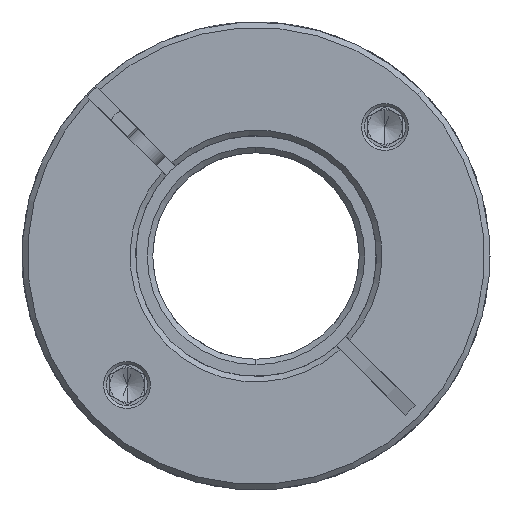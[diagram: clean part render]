
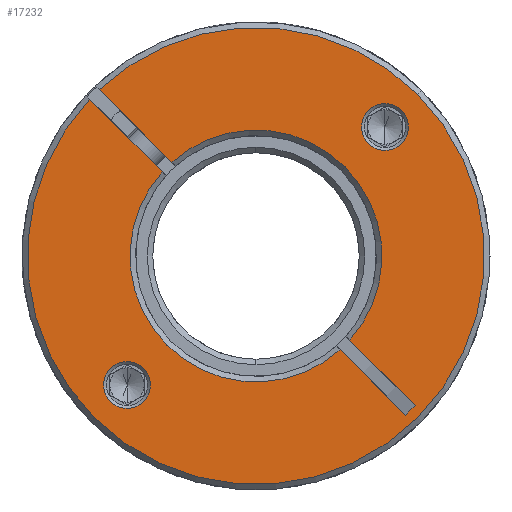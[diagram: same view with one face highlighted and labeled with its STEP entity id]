
A CAD part, front view. The second image highlights one B-rep face of the part: STEP entity #17232.
In plain terms, the highlighted planar face has unit normal (0, -1, 0).
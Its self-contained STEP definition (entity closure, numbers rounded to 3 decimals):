
#214 = CIRCLE ( 'NONE', #5764, 18.3 ) ;
#488 = VERTEX_POINT ( 'NONE', #20444 ) ;
#497 = CARTESIAN_POINT ( 'NONE',  ( -25.493, -67.045, 92.172 ) ) ;
#1090 = EDGE_LOOP ( 'NONE', ( #8278, #4819 ) ) ;
#1150 = ORIENTED_EDGE ( 'NONE', *, *, #20708, .T. ) ;
#1175 = VERTEX_POINT ( 'NONE', #18528 ) ;
#1197 = CIRCLE ( 'NONE', #5981, 18.3 ) ;
#1217 = VERTEX_POINT ( 'NONE', #16625 ) ;
#1457 = DIRECTION ( 'NONE',  ( 0., -1., 0. ) ) ;
#1490 = AXIS2_PLACEMENT_3D ( 'NONE', #1880, #3631, #14875 ) ;
#1880 = CARTESIAN_POINT ( 'NONE',  ( 16.003, -67.045, 86.738 ) ) ;
#2199 = CIRCLE ( 'NONE', #6375, 3.4 ) ;
#2593 = AXIS2_PLACEMENT_3D ( 'NONE', #5489, #1457, #12464 ) ;
#2727 = CARTESIAN_POINT ( 'NONE',  ( 10.205, -67.045, 80.94 ) ) ;
#2829 = DIRECTION ( 'NONE',  ( 0., -1., 0. ) ) ;
#3177 = CIRCLE ( 'NONE', #21154, 3.4 ) ;
#3203 = DIRECTION ( 'NONE',  ( 0., 1., 0. ) ) ;
#3238 = AXIS2_PLACEMENT_3D ( 'NONE', #13518, #15056, #18438 ) ;
#3242 = ORIENTED_EDGE ( 'NONE', *, *, #13574, .T. ) ;
#3631 = DIRECTION ( 'NONE',  ( 0., 1., 0. ) ) ;
#3775 = ORIENTED_EDGE ( 'NONE', *, *, #4108, .F. ) ;
#3842 = CARTESIAN_POINT ( 'NONE',  ( -26.908, -67.045, 90.758 ) ) ;
#3843 = DIRECTION ( 'NONE',  ( 0.707, 0., 0.707 ) ) ;
#3916 = VECTOR ( 'NONE', #4030, 1000. ) ;
#4030 = DIRECTION ( 'NONE',  ( 0.707, 0., -0.707 ) ) ;
#4108 = EDGE_CURVE ( 'NONE', #5648, #20839, #6244, .T. ) ;
#4454 = AXIS2_PLACEMENT_3D ( 'NONE', #15559, #5667, #5896 ) ;
#4621 = CARTESIAN_POINT ( 'NONE',  ( 20.741, -67.045, 91.476 ) ) ;
#4695 = DIRECTION ( 'NONE',  ( 0.707, 0., -0.707 ) ) ;
#4819 = ORIENTED_EDGE ( 'NONE', *, *, #17852, .T. ) ;
#5287 = CARTESIAN_POINT ( 'NONE',  ( -3.442, -67.045, 67.293 ) ) ;
#5489 = CARTESIAN_POINT ( 'NONE',  ( -2.735, -67.045, 68. ) ) ;
#5552 = CARTESIAN_POINT ( 'NONE',  ( -2.735, -67.045, 68. ) ) ;
#5645 = CARTESIAN_POINT ( 'NONE',  ( 16.003, -67.045, 86.738 ) ) ;
#5648 = VERTEX_POINT ( 'NONE', #9061 ) ;
#5667 = DIRECTION ( 'NONE',  ( 0., 1., 0. ) ) ;
#5764 = AXIS2_PLACEMENT_3D ( 'NONE', #7432, #17387, #15616 ) ;
#5896 = DIRECTION ( 'NONE',  ( 0.707, 0., 0.707 ) ) ;
#5981 = AXIS2_PLACEMENT_3D ( 'NONE', #5552, #8755, #20374 ) ;
#6119 = CARTESIAN_POINT ( 'NONE',  ( 18.988, -67.045, 44.862 ) ) ;
#6244 = LINE ( 'NONE', #5287, #17062 ) ;
#6375 = AXIS2_PLACEMENT_3D ( 'NONE', #18336, #16812, #10147 ) ;
#6692 = LINE ( 'NONE', #15757, #18051 ) ;
#6764 = VERTEX_POINT ( 'NONE', #14450 ) ;
#7052 = FACE_BOUND ( 'NONE', #1090, .T. ) ;
#7295 = ORIENTED_EDGE ( 'NONE', *, *, #13565, .T. ) ;
#7330 = EDGE_CURVE ( 'NONE', #17278, #1217, #1197, .T. ) ;
#7355 = VERTEX_POINT ( 'NONE', #497 ) ;
#7432 = CARTESIAN_POINT ( 'NONE',  ( -2.735, -67.045, 68. ) ) ;
#7544 = FACE_OUTER_BOUND ( 'NONE', #14470, .T. ) ;
#7808 = DIRECTION ( 'NONE',  ( -0.707, 0., -0.707 ) ) ;
#7926 = ORIENTED_EDGE ( 'NONE', *, *, #19812, .F. ) ;
#7931 = CIRCLE ( 'NONE', #1490, 3.4 ) ;
#7983 = CARTESIAN_POINT ( 'NONE',  ( 18.407, -67.045, 89.142 ) ) ;
#8113 = CIRCLE ( 'NONE', #16772, 3.4 ) ;
#8278 = ORIENTED_EDGE ( 'NONE', *, *, #15459, .T. ) ;
#8755 = DIRECTION ( 'NONE',  ( 0., 1., 0. ) ) ;
#8780 = LINE ( 'NONE', #13818, #3916 ) ;
#8950 = CARTESIAN_POINT ( 'NONE',  ( 20.402, -67.045, 46.277 ) ) ;
#9061 = CARTESIAN_POINT ( 'NONE',  ( 9.479, -67.045, 54.372 ) ) ;
#9134 = VERTEX_POINT ( 'NONE', #17339 ) ;
#9173 = VERTEX_POINT ( 'NONE', #8950 ) ;
#9258 = DIRECTION ( 'NONE',  ( 0.707, 0., 0.707 ) ) ;
#9485 = AXIS2_PLACEMENT_3D ( 'NONE', #20707, #12674, #9258 ) ;
#9766 = DIRECTION ( 'NONE',  ( 0.707, 0., 0.707 ) ) ;
#10002 = ORIENTED_EDGE ( 'NONE', *, *, #16563, .T. ) ;
#10147 = DIRECTION ( 'NONE',  ( 0.707, 0., 0.707 ) ) ;
#10172 = ORIENTED_EDGE ( 'NONE', *, *, #14594, .T. ) ;
#10333 = VERTEX_POINT ( 'NONE', #10714 ) ;
#10714 = CARTESIAN_POINT ( 'NONE',  ( 13.599, -67.045, 84.334 ) ) ;
#11179 = AXIS2_PLACEMENT_3D ( 'NONE', #12835, #2829, #12555 ) ;
#11369 = FACE_BOUND ( 'NONE', #12992, .T. ) ;
#11639 = DIRECTION ( 'NONE',  ( 0.707, 0., -0.707 ) ) ;
#11654 = LINE ( 'NONE', #6119, #17661 ) ;
#11858 = LINE ( 'NONE', #14375, #13127 ) ;
#11996 = VERTEX_POINT ( 'NONE', #4621 ) ;
#12464 = DIRECTION ( 'NONE',  ( 0.707, 0., 0.707 ) ) ;
#12555 = DIRECTION ( 'NONE',  ( 0.707, 0., 0.707 ) ) ;
#12674 = DIRECTION ( 'NONE',  ( 0., -1., 0. ) ) ;
#12835 = CARTESIAN_POINT ( 'NONE',  ( -2.735, -67.045, 68. ) ) ;
#12971 = CARTESIAN_POINT ( 'NONE',  ( -21.473, -67.045, 49.262 ) ) ;
#12992 = EDGE_LOOP ( 'NONE', ( #14421, #3242 ) ) ;
#13127 = VECTOR ( 'NONE', #15846, 1000. ) ;
#13518 = CARTESIAN_POINT ( 'NONE',  ( -2.735, -67.045, 68. ) ) ;
#13565 = EDGE_CURVE ( 'NONE', #488, #11996, #18270, .T. ) ;
#13574 = EDGE_CURVE ( 'NONE', #10333, #18648, #7931, .T. ) ;
#13637 = DIRECTION ( 'NONE',  ( 0., 1., 0. ) ) ;
#13818 = CARTESIAN_POINT ( 'NONE',  ( -2.028, -67.045, 68.707 ) ) ;
#13895 = VERTEX_POINT ( 'NONE', #15349 ) ;
#14050 = CIRCLE ( 'NONE', #11179, 33.2 ) ;
#14375 = CARTESIAN_POINT ( 'NONE',  ( -2.028, -67.045, 68.707 ) ) ;
#14421 = ORIENTED_EDGE ( 'NONE', *, *, #15584, .T. ) ;
#14450 = CARTESIAN_POINT ( 'NONE',  ( -23.878, -67.045, 46.858 ) ) ;
#14470 = EDGE_LOOP ( 'NONE', ( #7926, #1150, #7295, #18054, #16704, #10172, #20314, #20293, #10002, #3775, #15068 ) ) ;
#14594 = EDGE_CURVE ( 'NONE', #1175, #17278, #214, .T. ) ;
#14680 = EDGE_CURVE ( 'NONE', #11996, #7355, #14050, .T. ) ;
#14875 = DIRECTION ( 'NONE',  ( 0.707, 0., 0.707 ) ) ;
#14944 = CIRCLE ( 'NONE', #3238, 33.2 ) ;
#15056 = DIRECTION ( 'NONE',  ( 0., -1., 0. ) ) ;
#15068 = ORIENTED_EDGE ( 'NONE', *, *, #20855, .T. ) ;
#15349 = CARTESIAN_POINT ( 'NONE',  ( -19.069, -67.045, 51.666 ) ) ;
#15459 = EDGE_CURVE ( 'NONE', #13895, #6764, #2199, .T. ) ;
#15559 = CARTESIAN_POINT ( 'NONE',  ( -2.735, -67.045, 68. ) ) ;
#15584 = EDGE_CURVE ( 'NONE', #18648, #10333, #8113, .T. ) ;
#15616 = DIRECTION ( 'NONE',  ( 0.707, 0., 0.707 ) ) ;
#15757 = CARTESIAN_POINT ( 'NONE',  ( -3.442, -67.045, 67.293 ) ) ;
#15846 = DIRECTION ( 'NONE',  ( 0.707, 0., -0.707 ) ) ;
#16563 = EDGE_CURVE ( 'NONE', #9173, #20839, #11654, .T. ) ;
#16625 = CARTESIAN_POINT ( 'NONE',  ( 10.893, -67.045, 55.786 ) ) ;
#16704 = ORIENTED_EDGE ( 'NONE', *, *, #20915, .T. ) ;
#16772 = AXIS2_PLACEMENT_3D ( 'NONE', #5645, #13637, #3843 ) ;
#16812 = DIRECTION ( 'NONE',  ( 0., 1., 0. ) ) ;
#17062 = VECTOR ( 'NONE', #11639, 1000. ) ;
#17232 = ADVANCED_FACE ( 'NONE', ( #11369, #7052, #7544 ), #20781, .T. ) ;
#17278 = VERTEX_POINT ( 'NONE', #2727 ) ;
#17339 = CARTESIAN_POINT ( 'NONE',  ( -16.363, -67.045, 80.214 ) ) ;
#17387 = DIRECTION ( 'NONE',  ( 0., 1., 0. ) ) ;
#17661 = VECTOR ( 'NONE', #7808, 1000. ) ;
#17852 = EDGE_CURVE ( 'NONE', #6764, #13895, #3177, .T. ) ;
#18051 = VECTOR ( 'NONE', #4695, 1000. ) ;
#18054 = ORIENTED_EDGE ( 'NONE', *, *, #14680, .T. ) ;
#18270 = CIRCLE ( 'NONE', #2593, 33.2 ) ;
#18336 = CARTESIAN_POINT ( 'NONE',  ( -21.473, -67.045, 49.262 ) ) ;
#18438 = DIRECTION ( 'NONE',  ( 0.707, 0., 0.707 ) ) ;
#18528 = CARTESIAN_POINT ( 'NONE',  ( -14.949, -67.045, 81.628 ) ) ;
#18648 = VERTEX_POINT ( 'NONE', #7983 ) ;
#19648 = VERTEX_POINT ( 'NONE', #3842 ) ;
#19812 = EDGE_CURVE ( 'NONE', #19648, #9134, #6692, .T. ) ;
#20253 = EDGE_CURVE ( 'NONE', #1217, #9173, #8780, .T. ) ;
#20293 = ORIENTED_EDGE ( 'NONE', *, *, #20253, .T. ) ;
#20314 = ORIENTED_EDGE ( 'NONE', *, *, #7330, .T. ) ;
#20374 = DIRECTION ( 'NONE',  ( 0.707, 0., 0.707 ) ) ;
#20444 = CARTESIAN_POINT ( 'NONE',  ( -26.211, -67.045, 44.524 ) ) ;
#20553 = CARTESIAN_POINT ( 'NONE',  ( 18.988, -67.045, 44.862 ) ) ;
#20707 = CARTESIAN_POINT ( 'NONE',  ( -2.735, -67.045, 68. ) ) ;
#20708 = EDGE_CURVE ( 'NONE', #19648, #488, #14944, .T. ) ;
#20781 = PLANE ( 'NONE',  #9485 ) ;
#20839 = VERTEX_POINT ( 'NONE', #20553 ) ;
#20855 = EDGE_CURVE ( 'NONE', #5648, #9134, #21247, .T. ) ;
#20915 = EDGE_CURVE ( 'NONE', #7355, #1175, #11858, .T. ) ;
#21154 = AXIS2_PLACEMENT_3D ( 'NONE', #12971, #3203, #9766 ) ;
#21247 = CIRCLE ( 'NONE', #4454, 18.3 ) ;
